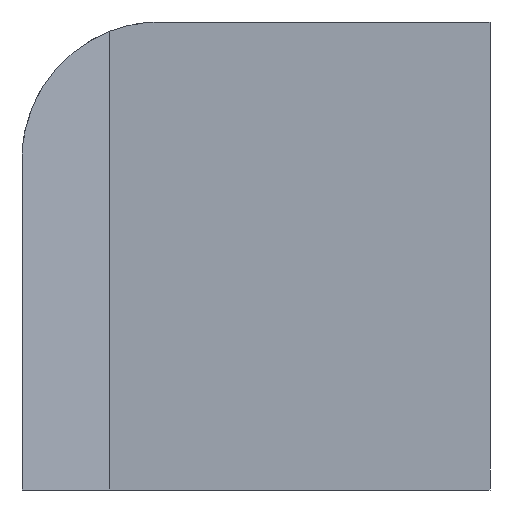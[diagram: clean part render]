
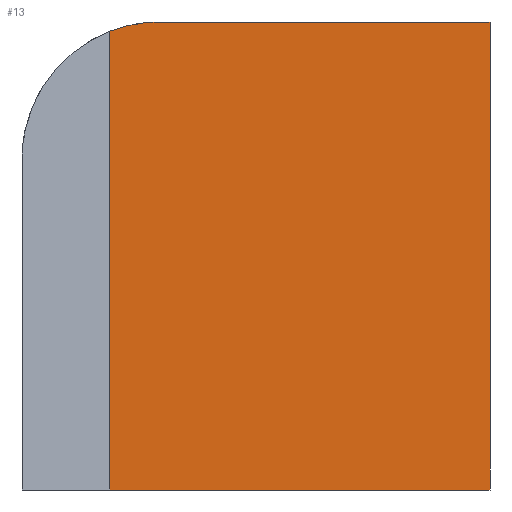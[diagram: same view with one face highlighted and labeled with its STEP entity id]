
A CAD part, front view. The second image highlights one B-rep face of the part: STEP entity #13.
In plain terms, the highlighted planar face has unit normal (0, -1, 0).
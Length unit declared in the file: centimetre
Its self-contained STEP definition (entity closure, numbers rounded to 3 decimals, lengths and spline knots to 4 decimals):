
#1 = VERTEX_POINT ( 'NONE', #364 ) ;
#4 = ORIENTED_EDGE ( 'NONE', *, *, #368, .F. ) ;
#5 = CARTESIAN_POINT ( 'NONE',  ( 293.3434, 0., 706.6566 ) ) ;
#7 = CARTESIAN_POINT ( 'NONE',  ( 187.2899, 0., 0. ) ) ;
#11 = VERTEX_POINT ( 'NONE', #307 ) ;
#13 = ADVANCED_FACE ( 'NONE', ( #190 ), #105, .F. ) ;
#15 = DIRECTION ( 'NONE',  ( 0., 0., 1. ) ) ;
#30 = VERTEX_POINT ( 'NONE', #360 ) ;
#65 = DIRECTION ( 'NONE',  ( 0., 0., 1. ) ) ;
#66 = ORIENTED_EDGE ( 'NONE', *, *, #67, .F. ) ;
#67 = EDGE_CURVE ( 'NONE', #232, #260, #219, .T. ) ;
#82 = DIRECTION ( 'NONE',  ( 1., 0., 0. ) ) ;
#89 = CARTESIAN_POINT ( 'NONE',  ( 1000., 0., 1000. ) ) ;
#93 = CARTESIAN_POINT ( 'NONE',  ( 1000., 0., 1000. ) ) ;
#97 = VECTOR ( 'NONE', #165, 100. ) ;
#98 = VECTOR ( 'NONE', #82, 100. ) ;
#102 = VECTOR ( 'NONE', #65, 100. ) ;
#105 = PLANE ( 'NONE',  #324 ) ;
#118 = CARTESIAN_POINT ( 'NONE',  ( 293.3434, 0., 1000. ) ) ;
#129 = ORIENTED_EDGE ( 'NONE', *, *, #322, .T. ) ;
#165 = DIRECTION ( 'NONE',  ( 1., 0., 0. ) ) ;
#175 = LINE ( 'NONE', #254, #98 ) ;
#190 = FACE_OUTER_BOUND ( 'NONE', #201, .T. ) ;
#201 = EDGE_LOOP ( 'NONE', ( #238, #372, #4, #66, #129 ) ) ;
#203 = EDGE_CURVE ( 'NONE', #30, #1, #175, .T. ) ;
#206 = CIRCLE ( 'NONE', #302, 293.3434 ) ;
#211 = LINE ( 'NONE', #89, #216 ) ;
#216 = VECTOR ( 'NONE', #296, 100. ) ;
#219 = LINE ( 'NONE', #341, #97 ) ;
#222 = CARTESIAN_POINT ( 'NONE',  ( 0., 0., 1000. ) ) ;
#232 = VERTEX_POINT ( 'NONE', #118 ) ;
#233 = LINE ( 'NONE', #7, #102 ) ;
#238 = ORIENTED_EDGE ( 'NONE', *, *, #373, .F. ) ;
#254 = CARTESIAN_POINT ( 'NONE',  ( 0., 0., 0. ) ) ;
#260 = VERTEX_POINT ( 'NONE', #93 ) ;
#267 = DIRECTION ( 'NONE',  ( 0., -1., 0. ) ) ;
#296 = DIRECTION ( 'NONE',  ( 0., 0., -1. ) ) ;
#301 = DIRECTION ( 'NONE',  ( 0., 0., 1. ) ) ;
#302 = AXIS2_PLACEMENT_3D ( 'NONE', #5, #267, #301 ) ;
#304 = DIRECTION ( 'NONE',  ( 0., 1., 0. ) ) ;
#307 = CARTESIAN_POINT ( 'NONE',  ( 187.2899, 0., 980.158 ) ) ;
#322 = EDGE_CURVE ( 'NONE', #232, #11, #206, .T. ) ;
#324 = AXIS2_PLACEMENT_3D ( 'NONE', #222, #304, #15 ) ;
#341 = CARTESIAN_POINT ( 'NONE',  ( 0., 0., 1000. ) ) ;
#360 = CARTESIAN_POINT ( 'NONE',  ( 187.2899, 0., 0. ) ) ;
#364 = CARTESIAN_POINT ( 'NONE',  ( 1000., 0., 0. ) ) ;
#368 = EDGE_CURVE ( 'NONE', #260, #1, #211, .T. ) ;
#372 = ORIENTED_EDGE ( 'NONE', *, *, #203, .T. ) ;
#373 = EDGE_CURVE ( 'NONE', #30, #11, #233, .T. ) ;
